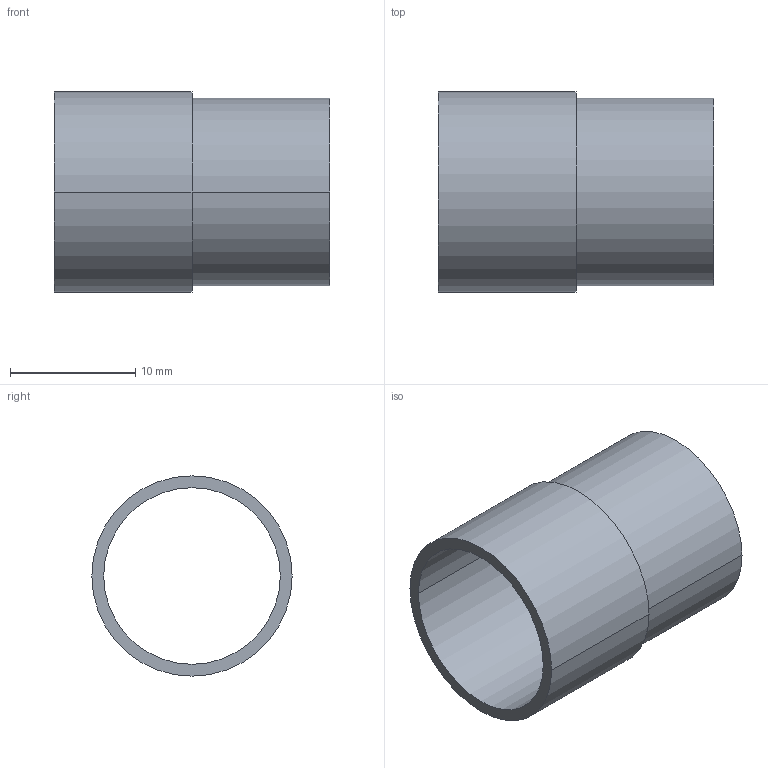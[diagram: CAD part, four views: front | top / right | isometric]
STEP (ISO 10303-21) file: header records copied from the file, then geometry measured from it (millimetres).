
FILE_DESCRIPTION(('Creo Elements/Direct Modeling STEP Export'),'2;1');
FILE_NAME('H05-0035-CL901-01_G13-14.stp','2012-09-28T14:20:17',(''),(''),'Creo Elements/Direct Modeling STEP processor for AP214 (Solid Model)','Creo Elements/Direct Modeling 18.0B 02-Dec-2011 (C) Parametric Technology GmbH','');
FILE_SCHEMA(('AUTOMOTIVE_DESIGN { 1 0 10303 214 1 1 1 1 }'));
Length unit declared in the file: millimetre
Products named in the file (1): G13-14
Bounding box: 22 x 16 x 16 mm (x, y, z)
Volume: 720.4 mm3; surface area: 2135.6 mm2
Topology: 1 solids, 1 shells, 9 faces, 18 edges, 12 vertices
Faces by surface type: cylinder 6, plane 3
Entity records: 240 total; most frequent: DIRECTION 38, ORIENTED_EDGE 36, CARTESIAN_POINT 34, EDGE_CURVE 18, AXIS2_PLACEMENT_3D 16, VERTEX_POINT 12, EDGE_LOOP 12, FACE_OUTER_BOUND 9
